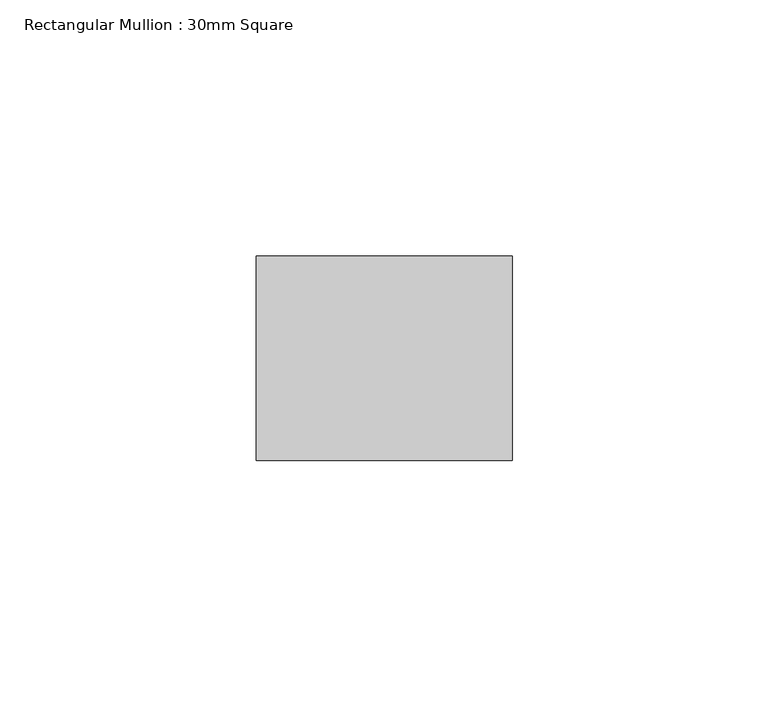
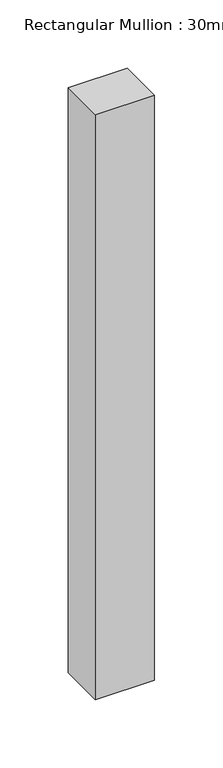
"""IFC4 building model written with IfcOpenShell, lengths in millimetres: member geometry, Rectangular Mullion : 30mm Square."""

from ifc_helpers import new_model, si_unit, frame, origin, place, context, project, spatial, polyline, outline, extrude, source, transform, mapped, element, save


def rectangular_mullion_30mm_square_1db451a7(model_context):
    return source(origin(), model_context, "Body", "SweptSolid", [
        extrude(outline(polyline([(0.0, 20.0), (0.0, -20.0), (-50.0, -20.0), (-50.0, 20.0), (0.0, 20.0)])), frame((0.0, 0.0, -524.1666667), z_axis=(0.0, 0.0, 1.0), x_axis=(1.0, 0.0, 0.0)), (0.0, 0.0, 1.0), 524.1666667),
    ])


if __name__ == "__main__":
    model = new_model("IFC4")
    model_context = context("Model", 3, world=origin())
    ifc_project = project(units=[si_unit("LENGTHUNIT", "METRE", prefix="MILLI")], contexts=[model_context])
    site = spatial("IfcSite", under=ifc_project)
    building = spatial("IfcBuilding", under=site)
    placement = place(None, origin())
    rectangular_mullion_30mm_square_shape = rectangular_mullion_30mm_square_1db451a7(model_context)
    element("IfcMember", 1, ObjectType="Rectangular Mullion : 30mm Square", at=placement, inside=building, context=model_context, shape_type="MappedRepresentation", body=[
        mapped(rectangular_mullion_30mm_square_shape, transform((0.0, 0.0, 0.0), x_axis=(1.0, 0.0, 0.0), y_axis=(0.0, 1.0, 0.0), z_axis=(0.0, 0.0, 1.0))),
    ])
    save(model, "model.ifc")
